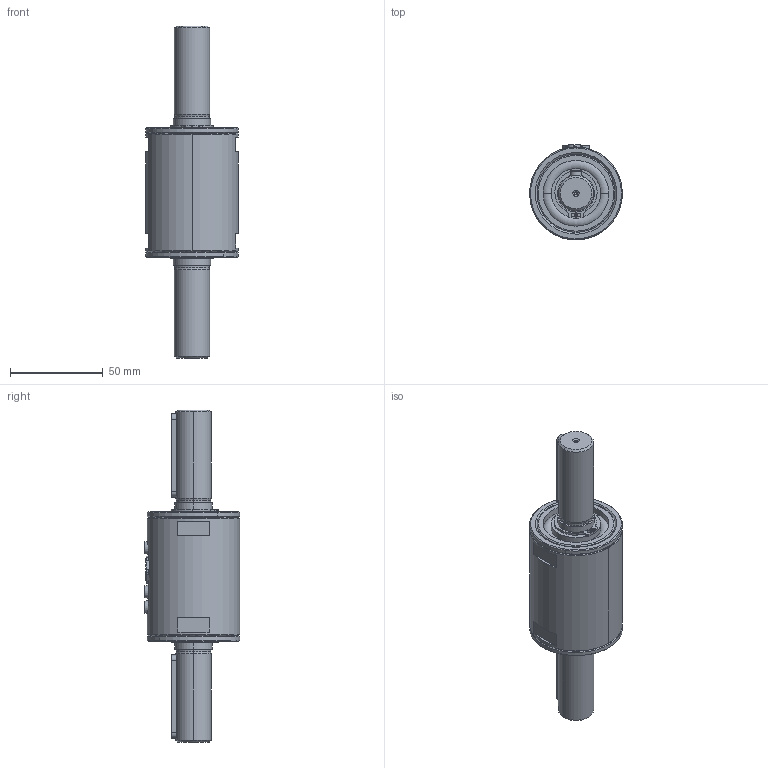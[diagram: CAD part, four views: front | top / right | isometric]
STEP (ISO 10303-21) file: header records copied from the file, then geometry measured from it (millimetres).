
FILE_DESCRIPTION (( 'STEP AP203' ), '1' );
FILE_NAME ('400006-ATS009_175Nm_20mm-Rund.STEP', '2017-02-20T10:24:10', ( '' ), ( '' ), 'SwSTEP 2.0', 'SolidWorks 2016', '' );
FILE_SCHEMA (( 'CONFIG_CONTROL_DESIGN' ));
Length unit declared in the file: millimetre
Products named in the file (14): Passscheibe DIN 988_DIN 988-30x42x0.5; 400006-ATM003_Rohrgehäuse-50mm; Passfeder_Parallel key A6 x 6 x 45 DIN 6885; 999999-ATM002_Tellerfeder_k_vorgespann41,6x25,5x0,5_Standard; 400006-ATS009_175Nm_20mm-Rund; 400006-ATM002-Mutter-Binder-Stecker; 400006-ATS021-PCB12_mit_Stecker_Welle 20mm; Zylinderschraube ISO 1207_ISO 1207 - M4 x 5 --- 5S; 400006-ATE009-Binder-712-0416-90-05; Zylinderschraube ISO 1207_ISO 1207 - M4 x 4 --- 4S; Seegering DIN 471_Circlip DIN 471 - 20 x 1.2; 400006-ATM027_Lagerdeckel_20mm; 400006-ATM026_Welle_20mm-Rund; Kugellager DIN 625_DIN 625 - 6004 - Full,SI,NC,Full_68
Assembly tree (18 placements, depth 3):
  400006-ATS009_175Nm_20mm-Rund
    400006-ATM026_Welle_20mm-Rund
    400006-ATS021-PCB12_mit_Stecker_Welle 20mm
      400006-ATE009-Binder-712-0416-90-05
    400006-ATM003_Rohrgehäuse-50mm
    400006-ATM027_Lagerdeckel_20mm  x2
    Seegering DIN 471_Circlip DIN 471 - 20 x 1.2  x2
    Zylinderschraube ISO 1207_ISO 1207 - M4 x 5 --- 5S  x2
    Zylinderschraube ISO 1207_ISO 1207 - M4 x 4 --- 4S
    Passfeder_Parallel key A6 x 6 x 45 DIN 6885  x2
    Kugellager DIN 625_DIN 625 - 6004 - Full,SI,NC,Full_68  x2
    Passscheibe DIN 988_DIN 988-30x42x0.5
    999999-ATM002_Tellerfeder_k_vorgespann41,6x25,5x0,5_Standard
    400006-ATM002-Mutter-Binder-Stecker
Bounding box: 50 x 51.6 x 179 mm (x, y, z)
Volume: 112906.8 mm3; surface area: 65410.3 mm2
Topology: 17 solids, 17 shells, 683 faces, 1631 edges, 1017 vertices
Faces by surface type: cylinder 256, plane 183, cone 168, torus 62, bspline 14
Entity records: 19055 total; most frequent: CARTESIAN_POINT 4571, DIRECTION 2847, ORIENTED_EDGE 2602, EDGE_CURVE 1301, AXIS2_PLACEMENT_3D 1179, VERTEX_POINT 821, CIRCLE 623, EDGE_LOOP 618
